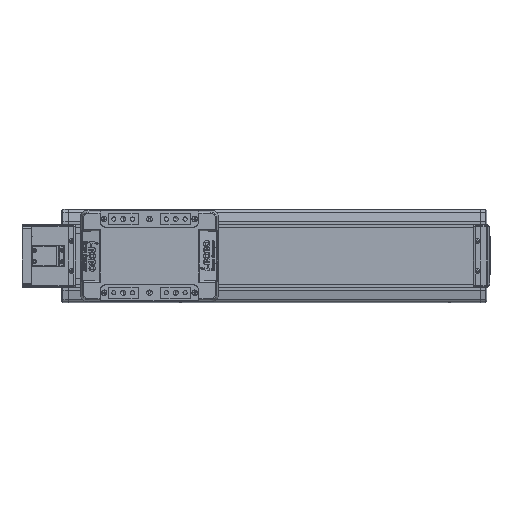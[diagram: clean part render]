
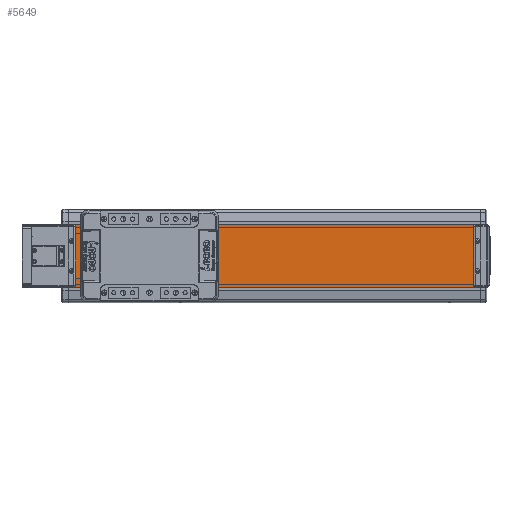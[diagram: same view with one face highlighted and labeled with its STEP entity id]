
A CAD part, top view. The second image highlights one B-rep face of the part: STEP entity #5649.
In plain terms, the highlighted planar face has unit normal (0, 0, 1).
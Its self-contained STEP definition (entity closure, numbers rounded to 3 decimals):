
#5649=ADVANCED_FACE('',(#12841),#12842,.F.);
#12841=FACE_OUTER_BOUND('',#22640,.T.);
#12842=PLANE('',#22641);
#22640=EDGE_LOOP('',(#39132,#39133,#39134,#39135));
#22641=AXIS2_PLACEMENT_3D('',#39136,#39137,#39138);
#39132=ORIENTED_EDGE('',*,*,#60682,.F.);
#39133=ORIENTED_EDGE('',*,*,#55728,.F.);
#39134=ORIENTED_EDGE('',*,*,#60641,.F.);
#39135=ORIENTED_EDGE('',*,*,#60683,.T.);
#39136=CARTESIAN_POINT('',(0.,0.,26.));
#39137=DIRECTION('',(0.,0.,-1.0));
#39138=DIRECTION('',(0.,1.0,0.));
#55728=EDGE_CURVE('',#66209,#66205,#66211,.T.);
#60641=EDGE_CURVE('',#74290,#66209,#74292,.T.);
#60682=EDGE_CURVE('',#66205,#74345,#74346,.T.);
#60683=EDGE_CURVE('',#74290,#74345,#74347,.T.);
#66205=VERTEX_POINT('',#81396);
#66209=VERTEX_POINT('',#81402);
#66211=LINE('',#81405,#81406);
#74290=VERTEX_POINT('',#92819);
#74292=LINE('',#92822,#92823);
#74345=VERTEX_POINT('',#92893);
#74346=LINE('',#92894,#92895);
#74347=LINE('',#92896,#92897);
#81396=CARTESIAN_POINT('',(660.0,50.,26.));
#81402=CARTESIAN_POINT('',(0.,50.,26.));
#81405=CARTESIAN_POINT('',(0.,50.,26.));
#81406=VECTOR('',#101644,10.0);
#92819=CARTESIAN_POINT('',(0.,-50.,26.));
#92822=CARTESIAN_POINT('',(0.,-50.,26.));
#92823=VECTOR('',#108988,10.0);
#92893=CARTESIAN_POINT('',(660.0,-50.,26.));
#92894=CARTESIAN_POINT('',(660.0,-50.,26.));
#92895=VECTOR('',#109036,10.0);
#92896=CARTESIAN_POINT('',(0.,-50.,26.));
#92897=VECTOR('',#109037,10.0);
#101644=DIRECTION('',(1.0,0.,0.));
#108988=DIRECTION('',(0.,1.0,0.));
#109036=DIRECTION('',(0.,-1.0,0.));
#109037=DIRECTION('',(1.0,0.,0.));
